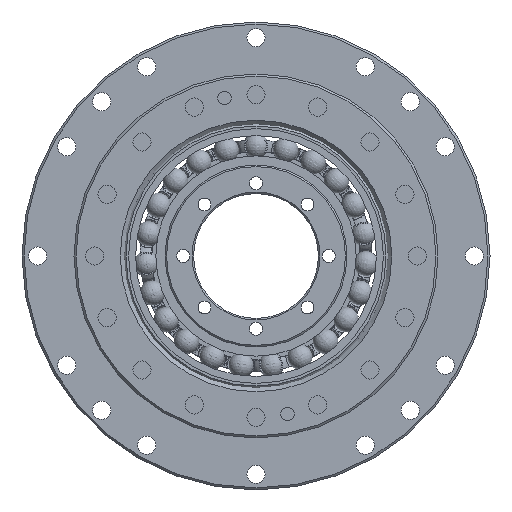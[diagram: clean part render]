
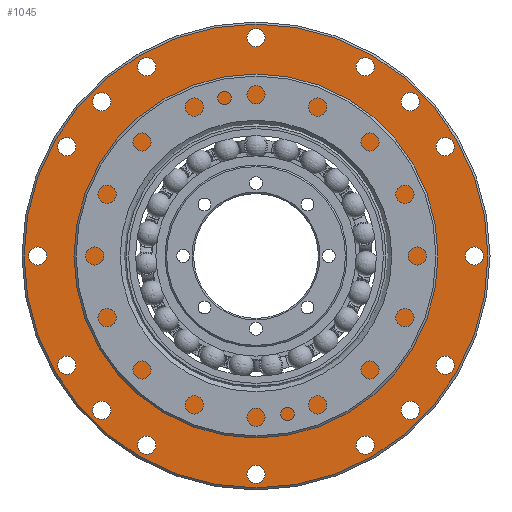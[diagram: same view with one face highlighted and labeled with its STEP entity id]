
A CAD part, left-side view. The second image highlights one B-rep face of the part: STEP entity #1045.
In plain terms, the highlighted planar face has unit normal (-1, 0, 0).
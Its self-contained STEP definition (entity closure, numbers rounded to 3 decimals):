
#1045=ADVANCED_FACE('',(#1390,#1391,#1392,#1393,#1394,#1395,#1396,#1397,
#1398,#1399,#1400,#1401,#1402,#1403,#1404,#1405,#1406,#1407),#1331,.T.);
#1331=PLANE('',#4912);
#1390=FACE_BOUND('',#1703,.T.);
#1391=FACE_BOUND('',#1704,.T.);
#1392=FACE_BOUND('',#1705,.T.);
#1393=FACE_BOUND('',#1706,.T.);
#1394=FACE_BOUND('',#1707,.T.);
#1395=FACE_BOUND('',#1708,.T.);
#1396=FACE_BOUND('',#1709,.T.);
#1397=FACE_BOUND('',#1710,.T.);
#1398=FACE_BOUND('',#1711,.T.);
#1399=FACE_BOUND('',#1712,.T.);
#1400=FACE_BOUND('',#1713,.T.);
#1401=FACE_BOUND('',#1714,.T.);
#1402=FACE_BOUND('',#1715,.T.);
#1403=FACE_BOUND('',#1716,.T.);
#1404=FACE_BOUND('',#1717,.T.);
#1405=FACE_BOUND('',#1718,.T.);
#1406=FACE_BOUND('',#1719,.T.);
#1407=FACE_BOUND('',#1720,.T.);
#1703=EDGE_LOOP('',(#2153));
#1704=EDGE_LOOP('',(#2154));
#1705=EDGE_LOOP('',(#2155));
#1706=EDGE_LOOP('',(#2156));
#1707=EDGE_LOOP('',(#2157));
#1708=EDGE_LOOP('',(#2158));
#1709=EDGE_LOOP('',(#2159));
#1710=EDGE_LOOP('',(#2160));
#1711=EDGE_LOOP('',(#2161));
#1712=EDGE_LOOP('',(#2162));
#1713=EDGE_LOOP('',(#2163));
#1714=EDGE_LOOP('',(#2164));
#1715=EDGE_LOOP('',(#2165));
#1716=EDGE_LOOP('',(#2166));
#1717=EDGE_LOOP('',(#2167));
#1718=EDGE_LOOP('',(#2168));
#1719=EDGE_LOOP('',(#2169));
#1720=EDGE_LOOP('',(#2170));
#2153=ORIENTED_EDGE('',*,*,#3888,.T.);
#2154=ORIENTED_EDGE('',*,*,#3889,.T.);
#2155=ORIENTED_EDGE('',*,*,#3890,.F.);
#2156=ORIENTED_EDGE('',*,*,#3891,.F.);
#2157=ORIENTED_EDGE('',*,*,#3892,.F.);
#2158=ORIENTED_EDGE('',*,*,#3893,.F.);
#2159=ORIENTED_EDGE('',*,*,#3894,.F.);
#2160=ORIENTED_EDGE('',*,*,#3895,.F.);
#2161=ORIENTED_EDGE('',*,*,#3896,.F.);
#2162=ORIENTED_EDGE('',*,*,#3897,.F.);
#2163=ORIENTED_EDGE('',*,*,#3898,.F.);
#2164=ORIENTED_EDGE('',*,*,#3899,.F.);
#2165=ORIENTED_EDGE('',*,*,#3900,.F.);
#2166=ORIENTED_EDGE('',*,*,#3901,.F.);
#2167=ORIENTED_EDGE('',*,*,#3902,.F.);
#2168=ORIENTED_EDGE('',*,*,#3903,.F.);
#2169=ORIENTED_EDGE('',*,*,#3904,.F.);
#2170=ORIENTED_EDGE('',*,*,#3905,.F.);
#3401=VERTEX_POINT('',#6720);
#3402=VERTEX_POINT('',#6722);
#3403=VERTEX_POINT('',#6724);
#3404=VERTEX_POINT('',#6726);
#3405=VERTEX_POINT('',#6728);
#3406=VERTEX_POINT('',#6730);
#3407=VERTEX_POINT('',#6732);
#3408=VERTEX_POINT('',#6734);
#3409=VERTEX_POINT('',#6736);
#3410=VERTEX_POINT('',#6738);
#3411=VERTEX_POINT('',#6740);
#3412=VERTEX_POINT('',#6742);
#3413=VERTEX_POINT('',#6744);
#3414=VERTEX_POINT('',#6746);
#3415=VERTEX_POINT('',#6748);
#3416=VERTEX_POINT('',#6750);
#3417=VERTEX_POINT('',#6752);
#3418=VERTEX_POINT('',#6754);
#3888=EDGE_CURVE('',#3401,#3401,#4595,.T.);
#3889=EDGE_CURVE('',#3402,#3402,#4596,.T.);
#3890=EDGE_CURVE('',#3403,#3403,#4597,.T.);
#3891=EDGE_CURVE('',#3404,#3404,#4598,.T.);
#3892=EDGE_CURVE('',#3405,#3405,#4599,.T.);
#3893=EDGE_CURVE('',#3406,#3406,#4600,.T.);
#3894=EDGE_CURVE('',#3407,#3407,#4601,.T.);
#3895=EDGE_CURVE('',#3408,#3408,#4602,.T.);
#3896=EDGE_CURVE('',#3409,#3409,#4603,.T.);
#3897=EDGE_CURVE('',#3410,#3410,#4604,.T.);
#3898=EDGE_CURVE('',#3411,#3411,#4605,.T.);
#3899=EDGE_CURVE('',#3412,#3412,#4606,.T.);
#3900=EDGE_CURVE('',#3413,#3413,#4607,.T.);
#3901=EDGE_CURVE('',#3414,#3414,#4608,.T.);
#3902=EDGE_CURVE('',#3415,#3415,#4609,.T.);
#3903=EDGE_CURVE('',#3416,#3416,#4610,.T.);
#3904=EDGE_CURVE('',#3417,#3417,#4611,.T.);
#3905=EDGE_CURVE('',#3418,#3418,#4612,.T.);
#4595=CIRCLE('',#4894,26.);
#4596=CIRCLE('',#4895,44.6);
#4597=CIRCLE('',#4896,1.75);
#4598=CIRCLE('',#4897,1.75);
#4599=CIRCLE('',#4898,1.75);
#4600=CIRCLE('',#4899,1.75);
#4601=CIRCLE('',#4900,1.75);
#4602=CIRCLE('',#4901,1.75);
#4603=CIRCLE('',#4902,1.75);
#4604=CIRCLE('',#4903,1.75);
#4605=CIRCLE('',#4904,1.75);
#4606=CIRCLE('',#4905,1.75);
#4607=CIRCLE('',#4906,1.75);
#4608=CIRCLE('',#4907,1.75);
#4609=CIRCLE('',#4908,1.75);
#4610=CIRCLE('',#4909,1.75);
#4611=CIRCLE('',#4910,1.75);
#4612=CIRCLE('',#4911,1.75);
#4894=AXIS2_PLACEMENT_3D('',#6719,#5482,#5483);
#4895=AXIS2_PLACEMENT_3D('',#6721,#5484,#5485);
#4896=AXIS2_PLACEMENT_3D('',#6723,#5486,#5487);
#4897=AXIS2_PLACEMENT_3D('',#6725,#5488,#5489);
#4898=AXIS2_PLACEMENT_3D('',#6727,#5490,#5491);
#4899=AXIS2_PLACEMENT_3D('',#6729,#5492,#5493);
#4900=AXIS2_PLACEMENT_3D('',#6731,#5494,#5495);
#4901=AXIS2_PLACEMENT_3D('',#6733,#5496,#5497);
#4902=AXIS2_PLACEMENT_3D('',#6735,#5498,#5499);
#4903=AXIS2_PLACEMENT_3D('',#6737,#5500,#5501);
#4904=AXIS2_PLACEMENT_3D('',#6739,#5502,#5503);
#4905=AXIS2_PLACEMENT_3D('',#6741,#5504,#5505);
#4906=AXIS2_PLACEMENT_3D('',#6743,#5506,#5507);
#4907=AXIS2_PLACEMENT_3D('',#6745,#5508,#5509);
#4908=AXIS2_PLACEMENT_3D('',#6747,#5510,#5511);
#4909=AXIS2_PLACEMENT_3D('',#6749,#5512,#5513);
#4910=AXIS2_PLACEMENT_3D('',#6751,#5514,#5515);
#4911=AXIS2_PLACEMENT_3D('',#6753,#5516,#5517);
#4912=AXIS2_PLACEMENT_3D('',#6755,#5518,#5519);
#5482=DIRECTION('',(1.,0.,0.));
#5483=DIRECTION('',(0.,0.,1.));
#5484=DIRECTION('',(-1.,0.,0.));
#5485=DIRECTION('',(0.,0.,1.));
#5486=DIRECTION('',(-1.,0.,0.));
#5487=DIRECTION('',(0.,0.,1.));
#5488=DIRECTION('',(-1.,0.,0.));
#5489=DIRECTION('',(0.,0.,1.));
#5490=DIRECTION('',(-1.,0.,0.));
#5491=DIRECTION('',(0.,0.,1.));
#5492=DIRECTION('',(-1.,0.,0.));
#5493=DIRECTION('',(0.,0.,1.));
#5494=DIRECTION('',(-1.,0.,0.));
#5495=DIRECTION('',(0.,0.,1.));
#5496=DIRECTION('',(-1.,0.,0.));
#5497=DIRECTION('',(0.,0.,1.));
#5498=DIRECTION('',(-1.,0.,0.));
#5499=DIRECTION('',(0.,0.,1.));
#5500=DIRECTION('',(-1.,0.,0.));
#5501=DIRECTION('',(0.,0.,1.));
#5502=DIRECTION('',(-1.,0.,0.));
#5503=DIRECTION('',(0.,0.,1.));
#5504=DIRECTION('',(-1.,0.,0.));
#5505=DIRECTION('',(0.,0.,1.));
#5506=DIRECTION('',(-1.,0.,0.));
#5507=DIRECTION('',(0.,0.,1.));
#5508=DIRECTION('',(-1.,0.,0.));
#5509=DIRECTION('',(0.,0.,1.));
#5510=DIRECTION('',(-1.,0.,0.));
#5511=DIRECTION('',(0.,0.,1.));
#5512=DIRECTION('',(-1.,0.,0.));
#5513=DIRECTION('',(0.,0.,1.));
#5514=DIRECTION('',(-1.,0.,0.));
#5515=DIRECTION('',(0.,0.,1.));
#5516=DIRECTION('',(-1.,0.,0.));
#5517=DIRECTION('',(0.,0.,1.));
#5518=DIRECTION('',(-1.,0.,0.));
#5519=DIRECTION('',(0.,0.,1.));
#6719=CARTESIAN_POINT('',(26.4,0.,0.));
#6720=CARTESIAN_POINT('',(26.4,0.,26.));
#6721=CARTESIAN_POINT('',(26.4,0.,0.));
#6722=CARTESIAN_POINT('',(26.4,0.,44.6));
#6723=CARTESIAN_POINT('',(26.4,-29.698,-29.698));
#6724=CARTESIAN_POINT('',(26.4,-29.698,-27.948));
#6725=CARTESIAN_POINT('',(26.4,29.698,-29.698));
#6726=CARTESIAN_POINT('',(26.4,29.698,-27.948));
#6727=CARTESIAN_POINT('',(26.4,29.698,29.698));
#6728=CARTESIAN_POINT('',(26.4,29.698,31.448));
#6729=CARTESIAN_POINT('',(26.4,-29.698,29.698));
#6730=CARTESIAN_POINT('',(26.4,-29.698,31.448));
#6731=CARTESIAN_POINT('',(26.4,-21.,36.373));
#6732=CARTESIAN_POINT('',(26.4,-21.,38.123));
#6733=CARTESIAN_POINT('',(26.4,-36.373,21.));
#6734=CARTESIAN_POINT('',(26.4,-36.373,22.75));
#6735=CARTESIAN_POINT('',(26.4,-42.,0.));
#6736=CARTESIAN_POINT('',(26.4,-42.,1.75));
#6737=CARTESIAN_POINT('',(26.4,-36.373,-21.));
#6738=CARTESIAN_POINT('',(26.4,-36.373,-19.25));
#6739=CARTESIAN_POINT('',(26.4,-21.,-36.373));
#6740=CARTESIAN_POINT('',(26.4,-21.,-34.623));
#6741=CARTESIAN_POINT('',(26.4,0.,-42.));
#6742=CARTESIAN_POINT('',(26.4,0.,-40.25));
#6743=CARTESIAN_POINT('',(26.4,21.,-36.373));
#6744=CARTESIAN_POINT('',(26.4,21.,-34.623));
#6745=CARTESIAN_POINT('',(26.4,36.373,-21.));
#6746=CARTESIAN_POINT('',(26.4,36.373,-19.25));
#6747=CARTESIAN_POINT('',(26.4,42.,0.));
#6748=CARTESIAN_POINT('',(26.4,42.,1.75));
#6749=CARTESIAN_POINT('',(26.4,36.373,21.));
#6750=CARTESIAN_POINT('',(26.4,36.373,22.75));
#6751=CARTESIAN_POINT('',(26.4,21.,36.373));
#6752=CARTESIAN_POINT('',(26.4,21.,38.123));
#6753=CARTESIAN_POINT('',(26.4,0.,42.));
#6754=CARTESIAN_POINT('',(26.4,0.,43.75));
#6755=CARTESIAN_POINT('',(26.4,0.,47.723));
